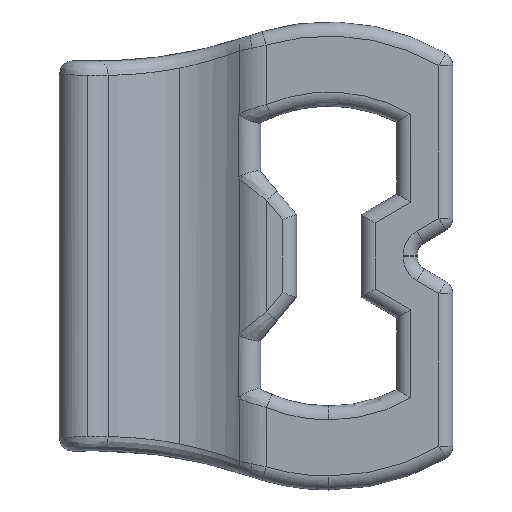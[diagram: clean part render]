
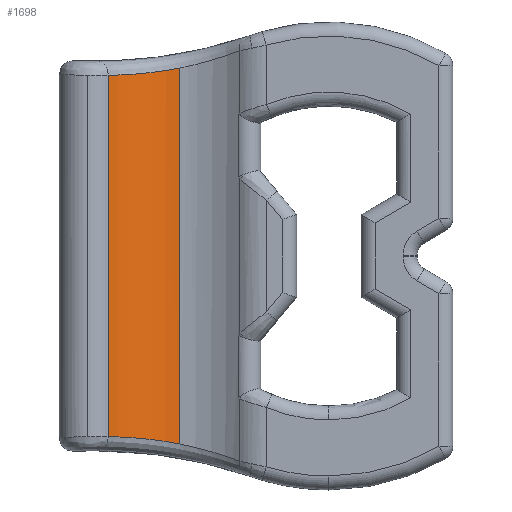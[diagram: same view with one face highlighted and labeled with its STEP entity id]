
A CAD part, left-side view. The second image highlights one B-rep face of the part: STEP entity #1698.
In plain terms, the highlighted cylindrical face has radius 8.631 mm (diameter 17.262 mm), a partial arc.
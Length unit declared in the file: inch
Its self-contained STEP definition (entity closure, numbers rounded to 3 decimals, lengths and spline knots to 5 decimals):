
#160 = CARTESIAN_POINT ( 'NONE',  ( 1.06124, 0.53306, -0.67079 ) ) ;
#169 = LINE ( 'NONE', #2134, #2038 ) ;
#204 = CARTESIAN_POINT ( 'NONE',  ( 0.95578, 0.77943, -0.64516 ) ) ;
#207 = CARTESIAN_POINT ( 'NONE',  ( 1.00238, 0.72459, 0.64689 ) ) ;
#412 = FACE_OUTER_BOUND ( 'NONE', #1675, .T. ) ;
#413 = ORIENTED_EDGE ( 'NONE', *, *, #2772, .T. ) ;
#442 = CARTESIAN_POINT ( 'NONE',  ( 1.02118, 0.69358, 0.64886 ) ) ;
#487 = B_SPLINE_CURVE_WITH_KNOTS ( 'NONE', 3,
 ( #2978, #1879, #3230, #2160, #2959, #763, #2119, #2701, #442, #2176, #207, #726, #2138, #745 ),
 .UNSPECIFIED., .F., .F.,
 ( 4, 2, 2, 2, 2, 2, 4 ),
 ( 0.00616, 0.00708, 0.008, 0.00984, 0.01077, 0.01169, 0.01353 ),
 .UNSPECIFIED. ) ;
#505 = ORIENTED_EDGE ( 'NONE', *, *, #3163, .T. ) ;
#529 = ORIENTED_EDGE ( 'NONE', *, *, #1297, .T. ) ;
#533 = CARTESIAN_POINT ( 'NONE',  ( 1.03651, 0.6609, -0.65173 ) ) ;
#726 = CARTESIAN_POINT ( 'NONE',  ( 0.98107, 0.75359, 0.64559 ) ) ;
#745 = CARTESIAN_POINT ( 'NONE',  ( 0.94668, 0.78749, 0.64512 ) ) ;
#759 = CARTESIAN_POINT ( 'NONE',  ( 1.02182, 0.69373, -0.64871 ) ) ;
#763 = CARTESIAN_POINT ( 'NONE',  ( 1.04879, 0.62732, 0.65535 ) ) ;
#835 = CARTESIAN_POINT ( 'NONE',  ( 0.96441, 0.77093, -0.64528 ) ) ;
#1003 = DIRECTION ( 'NONE',  ( 0., 0., 1. ) ) ;
#1061 = CARTESIAN_POINT ( 'NONE',  ( 1.06124, 0.53306, -0.67079 ) ) ;
#1099 = CARTESIAN_POINT ( 'NONE',  ( 0.94668, 0.78749, -0.64512 ) ) ;
#1132 = CARTESIAN_POINT ( 'NONE',  ( 0.94668, 0.78749, -0.64512 ) ) ;
#1133 = VERTEX_POINT ( 'NONE', #2375 ) ;
#1197 = DIRECTION ( 'NONE',  ( 0., 0., 1. ) ) ;
#1237 = ORIENTED_EDGE ( 'NONE', *, *, #2196, .T. ) ;
#1297 = EDGE_CURVE ( 'NONE', #3103, #1133, #487, .T. ) ;
#1455 = LINE ( 'NONE', #2880, #3555 ) ;
#1512 = CARTESIAN_POINT ( 'NONE',  ( 0.72145, 0.53306, -0.875 ) ) ;
#1570 = DIRECTION ( 'NONE',  ( 0., 0., -1. ) ) ;
#1620 = VERTEX_POINT ( 'NONE', #1132 ) ;
#1675 = EDGE_LOOP ( 'NONE', ( #413, #505, #529, #1237 ) ) ;
#1698 = ADVANCED_FACE ( 'NONE', ( #412 ), #2098, .F. ) ;
#1879 = CARTESIAN_POINT ( 'NONE',  ( 1.06124, 0.54483, 0.66846 ) ) ;
#1914 = CARTESIAN_POINT ( 'NONE',  ( 1.05876, 0.58044, -0.66207 ) ) ;
#1998 = CARTESIAN_POINT ( 'NONE',  ( 1.06124, 0.53306, 0.67079 ) ) ;
#2038 = VECTOR ( 'NONE', #1570, 39.37008 ) ;
#2098 = CYLINDRICAL_SURFACE ( 'NONE', #3549, 0.3398 ) ;
#2119 = CARTESIAN_POINT ( 'NONE',  ( 1.04139, 0.65, 0.65273 ) ) ;
#2134 = CARTESIAN_POINT ( 'NONE',  ( 0.94668, 0.78749, 1. ) ) ;
#2138 = CARTESIAN_POINT ( 'NONE',  ( 0.9649, 0.77136, 0.64521 ) ) ;
#2157 = CARTESIAN_POINT ( 'NONE',  ( 1.04087, 0.64958, -0.6529 ) ) ;
#2160 = CARTESIAN_POINT ( 'NONE',  ( 1.05816, 0.58024, 0.66226 ) ) ;
#2176 = CARTESIAN_POINT ( 'NONE',  ( 1.00899, 0.71453, 0.64745 ) ) ;
#2192 = B_SPLINE_CURVE_WITH_KNOTS ( 'NONE', 3,
 ( #1099, #204, #835, #3564, #3543, #2770, #759, #533, #2157, #3011, #2420, #1914, #3622, #1061 ),
 .UNSPECIFIED., .F., .F.,
 ( 4, 2, 2, 2, 2, 2, 4 ),
 ( 0., 0.00092, 0.00185, 0.00369, 0.00461, 0.00554, 0.00738 ),
 .UNSPECIFIED. ) ;
#2196 = EDGE_CURVE ( 'NONE', #1133, #1620, #169, .T. ) ;
#2375 = CARTESIAN_POINT ( 'NONE',  ( 0.94668, 0.78749, 0.64512 ) ) ;
#2420 = CARTESIAN_POINT ( 'NONE',  ( 1.05137, 0.61523, -0.65708 ) ) ;
#2474 = VERTEX_POINT ( 'NONE', #160 ) ;
#2701 = CARTESIAN_POINT ( 'NONE',  ( 1.02671, 0.68281, 0.64972 ) ) ;
#2770 = CARTESIAN_POINT ( 'NONE',  ( 1.00981, 0.71442, -0.64736 ) ) ;
#2772 = EDGE_CURVE ( 'NONE', #1620, #2474, #2192, .T. ) ;
#2880 = CARTESIAN_POINT ( 'NONE',  ( 1.06124, 0.53306, -0.875 ) ) ;
#2959 = CARTESIAN_POINT ( 'NONE',  ( 1.05629, 0.59214, 0.66039 ) ) ;
#2978 = CARTESIAN_POINT ( 'NONE',  ( 1.06124, 0.53306, 0.67079 ) ) ;
#3011 = CARTESIAN_POINT ( 'NONE',  ( 1.0483, 0.62674, -0.65558 ) ) ;
#3103 = VERTEX_POINT ( 'NONE', #1998 ) ;
#3163 = EDGE_CURVE ( 'NONE', #2474, #3103, #1455, .T. ) ;
#3230 = CARTESIAN_POINT ( 'NONE',  ( 1.06064, 0.55662, 0.66629 ) ) ;
#3441 = DIRECTION ( 'NONE',  ( 1., 0., 0. ) ) ;
#3543 = CARTESIAN_POINT ( 'NONE',  ( 0.98844, 0.74359, -0.64603 ) ) ;
#3549 = AXIS2_PLACEMENT_3D ( 'NONE', #1512, #1003, #3441 ) ;
#3555 = VECTOR ( 'NONE', #1197, 39.37008 ) ;
#3564 = CARTESIAN_POINT ( 'NONE',  ( 0.98073, 0.75303, -0.64571 ) ) ;
#3622 = CARTESIAN_POINT ( 'NONE',  ( 1.06124, 0.55688, -0.66607 ) ) ;
